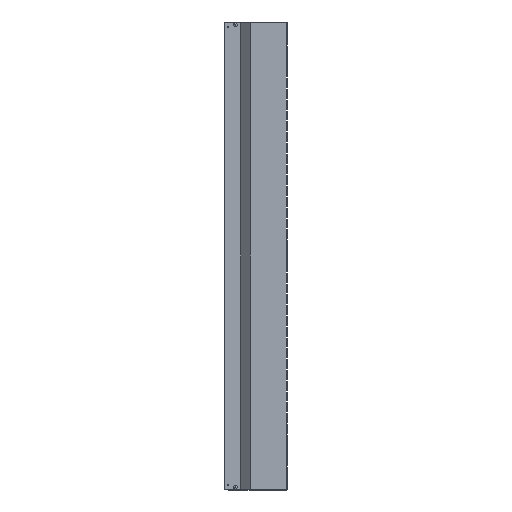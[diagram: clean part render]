
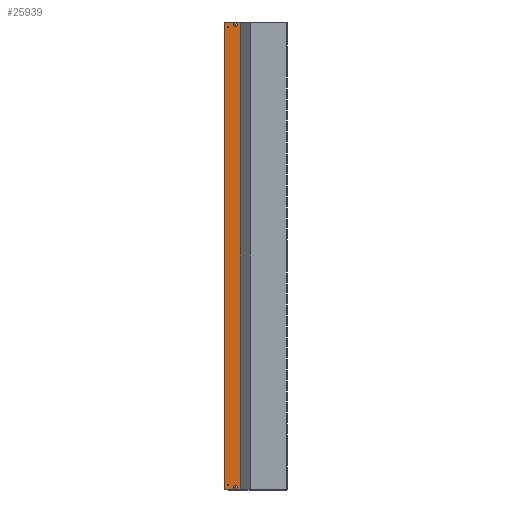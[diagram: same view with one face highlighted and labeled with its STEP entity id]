
A CAD part, left-side view. The second image highlights one B-rep face of the part: STEP entity #25939.
In plain terms, the highlighted planar face has unit normal (-1, 0, 0).
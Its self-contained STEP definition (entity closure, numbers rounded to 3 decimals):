
#1853=LINE('',#37437,#4205);
#1854=LINE('',#37439,#4206);
#1858=LINE('',#37451,#4210);
#1863=LINE('',#37464,#4215);
#1867=LINE('',#37477,#4219);
#1871=LINE('',#37489,#4223);
#1874=LINE('',#37499,#4226);
#1879=LINE('',#37512,#4231);
#1882=LINE('',#37523,#4234);
#1886=LINE('',#37535,#4238);
#1890=LINE('',#37547,#4242);
#1895=LINE('',#37560,#4247);
#4205=VECTOR('',#31425,1000.);
#4206=VECTOR('',#31428,1000.);
#4210=VECTOR('',#31440,1000.);
#4215=VECTOR('',#31453,1000.);
#4219=VECTOR('',#31465,1000.);
#4223=VECTOR('',#31477,1000.);
#4226=VECTOR('',#31488,1000.);
#4231=VECTOR('',#31501,1000.);
#4234=VECTOR('',#31512,1000.);
#4238=VECTOR('',#31524,1000.);
#4242=VECTOR('',#31536,1000.);
#4247=VECTOR('',#31549,1000.);
#5107=PLANE('',#27211);
#9708=ORIENTED_EDGE('',*,*,#13860,.T.);
#9709=ORIENTED_EDGE('',*,*,#13861,.T.);
#9710=ORIENTED_EDGE('',*,*,#13859,.F.);
#9711=ORIENTED_EDGE('',*,*,#13856,.T.);
#9712=ORIENTED_EDGE('',*,*,#13852,.F.);
#9713=ORIENTED_EDGE('',*,*,#13850,.T.);
#9714=ORIENTED_EDGE('',*,*,#13846,.F.);
#9715=ORIENTED_EDGE('',*,*,#13844,.T.);
#9716=ORIENTED_EDGE('',*,*,#13840,.F.);
#9717=ORIENTED_EDGE('',*,*,#13838,.T.);
#9718=ORIENTED_EDGE('',*,*,#13835,.F.);
#9719=ORIENTED_EDGE('',*,*,#13832,.T.);
#9720=ORIENTED_EDGE('',*,*,#13828,.F.);
#9721=ORIENTED_EDGE('',*,*,#13826,.T.);
#9722=ORIENTED_EDGE('',*,*,#13823,.F.);
#9723=ORIENTED_EDGE('',*,*,#13820,.T.);
#9724=ORIENTED_EDGE('',*,*,#13817,.F.);
#9725=ORIENTED_EDGE('',*,*,#13814,.T.);
#9726=ORIENTED_EDGE('',*,*,#13811,.F.);
#9727=ORIENTED_EDGE('',*,*,#13808,.T.);
#9728=ORIENTED_EDGE('',*,*,#13804,.F.);
#9729=ORIENTED_EDGE('',*,*,#13802,.T.);
#9730=ORIENTED_EDGE('',*,*,#13798,.F.);
#9731=ORIENTED_EDGE('',*,*,#13797,.F.);
#13797=EDGE_CURVE('',#16143,#16142,#1853,.T.);
#13798=EDGE_CURVE('',#16142,#16144,#1854,.T.);
#13802=EDGE_CURVE('',#16147,#16144,#17030,.F.);
#13804=EDGE_CURVE('',#16147,#16148,#1858,.T.);
#13808=EDGE_CURVE('',#16151,#16148,#17032,.F.);
#13811=EDGE_CURVE('',#16151,#16143,#1863,.T.);
#13814=EDGE_CURVE('',#16155,#16154,#17034,.T.);
#13817=EDGE_CURVE('',#16155,#16157,#1867,.T.);
#13820=EDGE_CURVE('',#16159,#16157,#17036,.T.);
#13823=EDGE_CURVE('',#16159,#16161,#1871,.T.);
#13826=EDGE_CURVE('',#16163,#16161,#17038,.T.);
#13828=EDGE_CURVE('',#16163,#16164,#1874,.T.);
#13832=EDGE_CURVE('',#16167,#16164,#17040,.T.);
#13835=EDGE_CURVE('',#16167,#16154,#1879,.T.);
#13838=EDGE_CURVE('',#16171,#16170,#17042,.T.);
#13840=EDGE_CURVE('',#16171,#16172,#1882,.T.);
#13844=EDGE_CURVE('',#16175,#16172,#17044,.T.);
#13846=EDGE_CURVE('',#16175,#16176,#1886,.T.);
#13850=EDGE_CURVE('',#16179,#16176,#17046,.T.);
#13852=EDGE_CURVE('',#16179,#16180,#1890,.T.);
#13856=EDGE_CURVE('',#16183,#16180,#17048,.T.);
#13859=EDGE_CURVE('',#16183,#16170,#1895,.T.);
#13860=EDGE_CURVE('',#16184,#16184,#17049,.T.);
#13861=EDGE_CURVE('',#16185,#16185,#17050,.T.);
#16142=VERTEX_POINT('',#37434);
#16143=VERTEX_POINT('',#37436);
#16144=VERTEX_POINT('',#37440);
#16147=VERTEX_POINT('',#37448);
#16148=VERTEX_POINT('',#37452);
#16151=VERTEX_POINT('',#37460);
#16154=VERTEX_POINT('',#37470);
#16155=VERTEX_POINT('',#37472);
#16157=VERTEX_POINT('',#37478);
#16159=VERTEX_POINT('',#37484);
#16161=VERTEX_POINT('',#37490);
#16163=VERTEX_POINT('',#37496);
#16164=VERTEX_POINT('',#37500);
#16167=VERTEX_POINT('',#37508);
#16170=VERTEX_POINT('',#37518);
#16171=VERTEX_POINT('',#37520);
#16172=VERTEX_POINT('',#37524);
#16175=VERTEX_POINT('',#37532);
#16176=VERTEX_POINT('',#37536);
#16179=VERTEX_POINT('',#37544);
#16180=VERTEX_POINT('',#37548);
#16183=VERTEX_POINT('',#37556);
#16184=VERTEX_POINT('',#37563);
#16185=VERTEX_POINT('',#37565);
#17030=CIRCLE('',#27173,1.);
#17032=CIRCLE('',#27177,1.);
#17034=CIRCLE('',#27181,0.2);
#17036=CIRCLE('',#27185,0.2);
#17038=CIRCLE('',#27189,0.2);
#17040=CIRCLE('',#27193,0.2);
#17042=CIRCLE('',#27197,0.2);
#17044=CIRCLE('',#27201,0.2);
#17046=CIRCLE('',#27205,0.2);
#17048=CIRCLE('',#27209,0.2);
#17049=CIRCLE('',#27212,3.9);
#17050=CIRCLE('',#27213,3.9);
#17929=EDGE_LOOP('',(#9708));
#17930=EDGE_LOOP('',(#9709));
#17931=EDGE_LOOP('',(#9710,#9711,#9712,#9713,#9714,#9715,#9716,#9717));
#17932=EDGE_LOOP('',(#9718,#9719,#9720,#9721,#9722,#9723,#9724,#9725));
#17933=EDGE_LOOP('',(#9726,#9727,#9728,#9729,#9730,#9731));
#18921=FACE_BOUND('',#17929,.T.);
#18922=FACE_BOUND('',#17930,.T.);
#18923=FACE_BOUND('',#17931,.T.);
#18924=FACE_BOUND('',#17932,.T.);
#18925=FACE_BOUND('',#17933,.T.);
#25939=ADVANCED_FACE('',(#18921,#18922,#18923,#18924,#18925),#5107,.F.);
#27173=AXIS2_PLACEMENT_3D('',#37447,#31435,#31436);
#27177=AXIS2_PLACEMENT_3D('',#37459,#31447,#31448);
#27181=AXIS2_PLACEMENT_3D('',#37471,#31459,#31460);
#27185=AXIS2_PLACEMENT_3D('',#37483,#31471,#31472);
#27189=AXIS2_PLACEMENT_3D('',#37495,#31483,#31484);
#27193=AXIS2_PLACEMENT_3D('',#37507,#31495,#31496);
#27197=AXIS2_PLACEMENT_3D('',#37519,#31507,#31508);
#27201=AXIS2_PLACEMENT_3D('',#37531,#31519,#31520);
#27205=AXIS2_PLACEMENT_3D('',#37543,#31531,#31532);
#27209=AXIS2_PLACEMENT_3D('',#37555,#31543,#31544);
#27211=AXIS2_PLACEMENT_3D('',#37561,#31550,#31551);
#27212=AXIS2_PLACEMENT_3D('',#37562,#31552,#31553);
#27213=AXIS2_PLACEMENT_3D('',#37564,#31554,#31555);
#31425=DIRECTION('',(0.,0.,-1.));
#31428=DIRECTION('',(0.,1.,0.));
#31435=DIRECTION('',(1.,0.,0.));
#31436=DIRECTION('',(0.,0.,-1.));
#31440=DIRECTION('',(0.,0.,1.));
#31447=DIRECTION('',(1.,0.,0.));
#31448=DIRECTION('',(0.,0.,-1.));
#31453=DIRECTION('',(0.,-1.,0.));
#31459=DIRECTION('',(1.,0.,0.));
#31460=DIRECTION('',(0.,0.,-1.));
#31465=DIRECTION('',(0.,1.,0.));
#31471=DIRECTION('',(1.,0.,0.));
#31472=DIRECTION('',(0.,0.,-1.));
#31477=DIRECTION('',(0.,0.,-1.));
#31483=DIRECTION('',(1.,0.,0.));
#31484=DIRECTION('',(0.,0.,-1.));
#31488=DIRECTION('',(0.,-1.,0.));
#31495=DIRECTION('',(1.,0.,0.));
#31496=DIRECTION('',(0.,0.,-1.));
#31501=DIRECTION('',(0.,0.,1.));
#31507=DIRECTION('',(1.,0.,0.));
#31508=DIRECTION('',(0.,0.,-1.));
#31512=DIRECTION('',(0.,0.,-1.));
#31519=DIRECTION('',(1.,0.,0.));
#31520=DIRECTION('',(0.,0.,-1.));
#31524=DIRECTION('',(0.,-1.,0.));
#31531=DIRECTION('',(1.,0.,0.));
#31532=DIRECTION('',(0.,0.,-1.));
#31536=DIRECTION('',(0.,0.,1.));
#31543=DIRECTION('',(1.,0.,0.));
#31544=DIRECTION('',(0.,0.,-1.));
#31549=DIRECTION('',(0.,1.,0.));
#31550=DIRECTION('',(1.,0.,0.));
#31551=DIRECTION('',(0.,0.,-1.));
#31552=DIRECTION('',(1.,0.,0.));
#31553=DIRECTION('',(0.,0.,-1.));
#31554=DIRECTION('',(1.,0.,0.));
#31555=DIRECTION('',(0.,0.,-1.));
#37434=CARTESIAN_POINT('',(-28.24,103.276,-516.7));
#37436=CARTESIAN_POINT('',(-28.24,103.276,516.7));
#37437=CARTESIAN_POINT('',(-28.24,103.276,516.7));
#37439=CARTESIAN_POINT('',(-28.24,103.275,-516.7));
#37440=CARTESIAN_POINT('',(-28.24,137.275,-516.7));
#37447=CARTESIAN_POINT('',(-28.24,137.275,-515.7));
#37448=CARTESIAN_POINT('',(-28.24,138.275,-515.7));
#37451=CARTESIAN_POINT('',(-28.24,138.275,-516.7));
#37452=CARTESIAN_POINT('',(-28.24,138.275,515.7));
#37459=CARTESIAN_POINT('',(-28.24,137.275,515.7));
#37460=CARTESIAN_POINT('',(-28.24,137.275,516.7));
#37464=CARTESIAN_POINT('',(-28.24,138.275,516.7));
#37470=CARTESIAN_POINT('',(-28.24,129.7,-505.7));
#37471=CARTESIAN_POINT('',(-28.24,129.9,-505.7));
#37472=CARTESIAN_POINT('',(-28.24,129.9,-505.5));
#37477=CARTESIAN_POINT('',(-28.24,0.,-505.5));
#37478=CARTESIAN_POINT('',(-28.24,131.1,-505.5));
#37483=CARTESIAN_POINT('',(-28.24,131.1,-505.7));
#37484=CARTESIAN_POINT('',(-28.24,131.3,-505.7));
#37489=CARTESIAN_POINT('',(-28.24,131.3,0.));
#37490=CARTESIAN_POINT('',(-28.24,131.3,-508.5));
#37495=CARTESIAN_POINT('',(-28.24,131.1,-508.5));
#37496=CARTESIAN_POINT('',(-28.24,131.1,-508.7));
#37499=CARTESIAN_POINT('',(-28.24,0.,-508.7));
#37500=CARTESIAN_POINT('',(-28.24,129.9,-508.7));
#37507=CARTESIAN_POINT('',(-28.24,129.9,-508.5));
#37508=CARTESIAN_POINT('',(-28.24,129.7,-508.5));
#37512=CARTESIAN_POINT('',(-28.24,129.7,0.));
#37518=CARTESIAN_POINT('',(-28.24,131.1,508.7));
#37519=CARTESIAN_POINT('',(-28.24,131.1,508.5));
#37520=CARTESIAN_POINT('',(-28.24,131.3,508.5));
#37523=CARTESIAN_POINT('',(-28.24,131.3,0.));
#37524=CARTESIAN_POINT('',(-28.24,131.3,505.7));
#37531=CARTESIAN_POINT('',(-28.24,131.1,505.7));
#37532=CARTESIAN_POINT('',(-28.24,131.1,505.5));
#37535=CARTESIAN_POINT('',(-28.24,0.,505.5));
#37536=CARTESIAN_POINT('',(-28.24,129.9,505.5));
#37543=CARTESIAN_POINT('',(-28.24,129.9,505.7));
#37544=CARTESIAN_POINT('',(-28.24,129.7,505.7));
#37547=CARTESIAN_POINT('',(-28.24,129.7,0.));
#37548=CARTESIAN_POINT('',(-28.24,129.7,508.5));
#37555=CARTESIAN_POINT('',(-28.24,129.9,508.5));
#37556=CARTESIAN_POINT('',(-28.24,129.9,508.7));
#37560=CARTESIAN_POINT('',(-28.24,0.,508.7));
#37561=CARTESIAN_POINT('',(-28.24,0.,0.));
#37562=CARTESIAN_POINT('',(-28.24,114.7,-511.999));
#37563=CARTESIAN_POINT('',(-28.24,114.7,-515.899));
#37564=CARTESIAN_POINT('',(-28.24,114.7,511.999));
#37565=CARTESIAN_POINT('',(-28.24,114.7,508.099));
